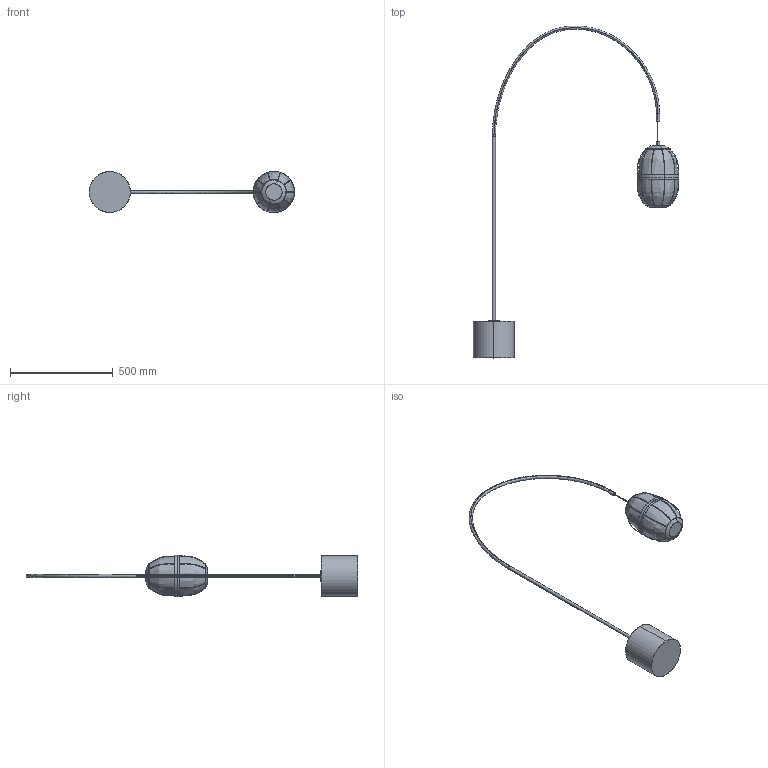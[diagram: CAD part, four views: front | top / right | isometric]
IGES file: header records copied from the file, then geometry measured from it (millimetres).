
Start section: SolidWorks IGES file using analytic representation for surfaces
Global section: file name: C:\Users\Agustin\Desktop\ENERO 2025\PIE PANTALLA TELA\PULL_P1249.IGS; native system: SolidWorks 2018; preprocessor: SolidWorks 2018; author: Agustin; date: 250305.174453; units: millimetre
Bounding box: 1001.05 x 1619.1 x 201.94 mm (x, y, z)
Surface area: 740816.3 mm2 (no closed solid volume)
Topology: 0 solids, 0 shells, 176 faces, 3016 edges, 3016 vertices
Faces by surface type: bspline 114, revolution 62
